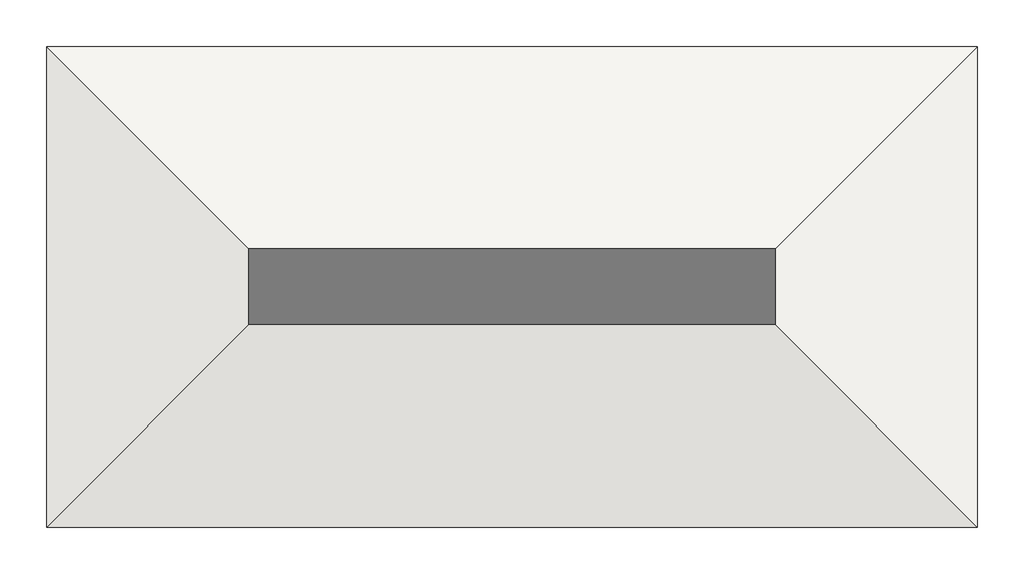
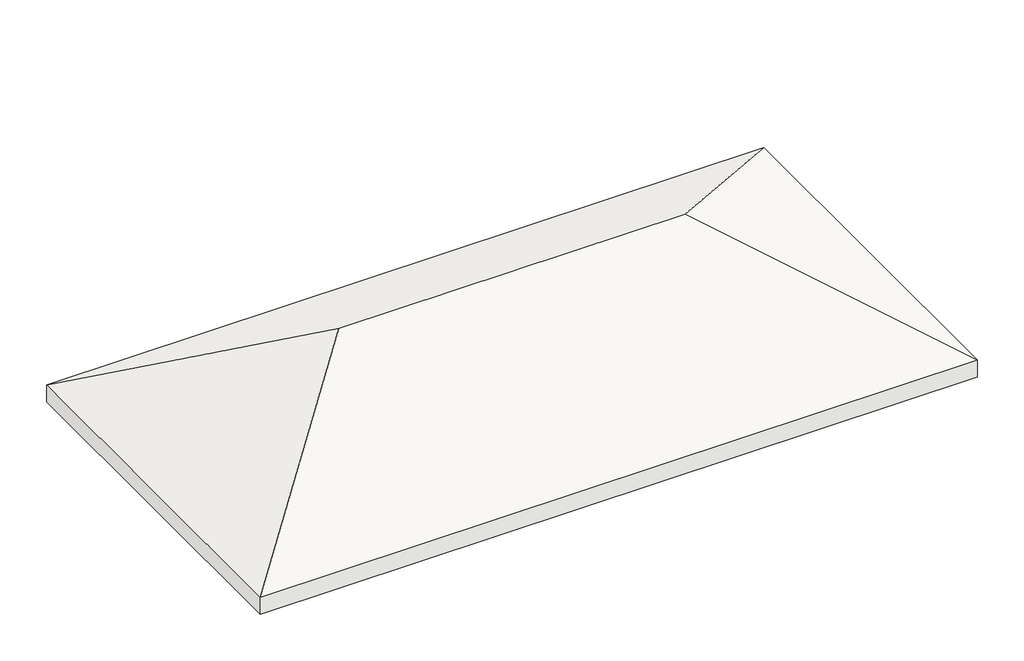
# One storey: 1 roof.
"""IFC4 building model written with IfcOpenShell, lengths in millimetres."""

from ifc_helpers import new_model, si_unit, origin, place, context, project, spatial, faceted_brep, element, save

model = new_model("IFC4")

# Units and contexts
model_context = context("Model", 3, world=origin())
ifc_project = project(units=[si_unit("LENGTHUNIT", "METRE", prefix="MILLI")], contexts=[model_context])

# Site, building, storey
site = spatial("IfcSite", under=ifc_project)
building = spatial("IfcBuilding", under=site)
storey = spatial("IfcBuildingStorey", under=building, Name="04 arase des murs", Elevation=2700.0)

# Roof
placement = place(None, origin())
element("IfcRoof", 1, ObjectType="Toit - 200 mm", at=placement, inside=storey, context=model_context, shape_type="Brep", body=[
    faceted_brep([(420.0, 4280.0, 2526.7949192), (-1930.0, 1930.0, 3883.5680518), (-6330.0, 1930.0, 3883.5680518), (-8680.0, 4280.0, 2526.7949192), (420.0, -420.0, 2526.7949192), (-8680.0, -420.0, 2526.7949192), (420.0, 4280.0, 2757.7350269), (-8680.0, 4280.0, 2757.7350269), (-6330.0, 1930.0, 4114.5081595), (-1930.0, 1930.0, 4114.5081595), (420.0, -420.0, 2757.7350269), (-8680.0, -420.0, 2757.7350269)], [[[0, 1, 2, 3]], [[1, 0, 4]], [[5, 2, 1, 4]], [[3, 2, 5]], [[6, 7, 8, 9]], [[6, 9, 10]], [[11, 10, 9, 8]], [[7, 11, 8]], [[3, 7, 6, 0]], [[5, 11, 7, 3]], [[4, 10, 11, 5]], [[0, 6, 10, 4]]]),
])

save(model, "model.ifc")
